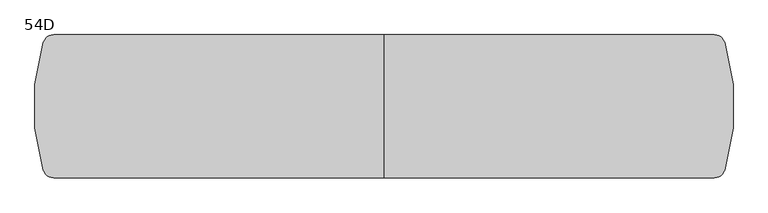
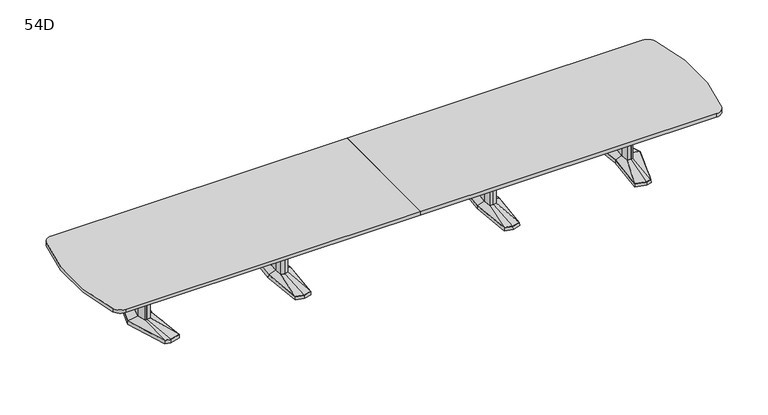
"""IFC4 building model written with IfcOpenShell, lengths in millimetres: furniture geometry, Coalesse_AM_Table_Conference_ETable2_SoftRadiused_22ft_AluminiumBase : 54D."""

from ifc_helpers import new_model, si_unit, point, frame, frame_2d, origin, place, context, project, spatial, polyline, circle_curve, trimmed, segment, composite_curve, outline, extrude, faceted_brep, source, transform, mapped, element, save
from ifc_brep_helpers import plane_surface, spline_surface, advanced_brep


def furniture_54d_d06905ca(model_context):
    return source(origin(), model_context, "Body", "SolidModel", [
        faceted_brep([(1036.3666209, -433.8053819, 38.1), (1117.6, -455.556576, 38.1), (1198.8333791, -433.8053819, 38.1), (1236.6564774, 0.0, 38.1), (1198.8333791, 433.8053819, 38.1), (1117.6, 455.556576, 38.1), (1036.3666209, 433.8053819, 38.1), (998.5435226, 0.0, 38.1), (1034.8817205, -435.0512063, 3.175), (996.95, 0.0, 3.175), (1034.8817205, 435.0512063, 3.175), (1117.6, 457.2, 3.175), (1200.3182795, 435.0512063, 3.175), (1238.25, 0.0, 3.175), (1200.3182795, -435.0512063, 3.175), (1117.6, -457.2, 3.175), (1117.6, 429.2617927, 3.175), (1039.6323194, 408.3850278, 3.175), (1042.8980179, 382.9646737, 3.175), (1117.6, 402.9670094, 3.175), (1192.3019821, 382.9646737, 3.175), (1195.5676806, 408.3850278, 3.175), (1117.6, -429.2617927, 3.175), (1195.5676806, -408.3850278, 3.175), (1192.3019821, -382.9646737, 3.175), (1117.6, -402.9670094, 3.175), (1042.8980179, -382.9646737, 3.175), (1039.6323194, -408.3850278, 3.175), (1045.7425738, 114.6326257, 3.175), (1035.0573924, 0.0, 3.175), (1045.7425738, -114.6326257, 3.175), (1117.6, -133.8761372, 3.175), (1189.4574262, -114.6326257, 3.175), (1200.1426076, 0.0, 3.175), (1189.4574262, 114.6326257, 3.175), (1117.6, 133.8761372, 3.175), (1117.6, 429.2617927, 0.0), (1195.5676806, 408.3850278, 0.0), (1192.3019821, 382.9646737, 0.0), (1117.6, 402.9670094, 0.0), (1042.8980179, 382.9646737, 0.0), (1039.6323194, 408.3850278, 0.0), (1117.6, -429.2617927, 0.0), (1039.6323194, -408.3850278, 0.0), (1042.8980179, -382.9646737, 0.0), (1117.6, -402.9670094, 0.0), (1192.3019821, -382.9646737, 0.0), (1195.5676806, -408.3850278, 0.0), (1045.7425738, 114.6326257, 0.0), (1117.6, 133.8761372, 0.0), (1189.4574262, 114.6326257, 0.0), (1200.1426076, 0.0, 0.0), (1189.4574262, -114.6326257, 0.0), (1117.6, -133.8761372, 0.0), (1045.7425738, -114.6326257, 0.0), (1035.0573924, 0.0, 0.0)], [[[0, 1, 2, 3, 4, 5, 6, 7]], [[8, 9, 10, 11, 12, 13, 14, 15], [16, 17, 18, 19, 20, 21], [22, 23, 24, 25, 26, 27], [28, 29, 30, 31, 32, 33, 34, 35]], [[1, 0, 8, 15]], [[2, 1, 15, 14]], [[3, 2, 14, 13]], [[4, 3, 13, 12]], [[5, 4, 12, 11]], [[6, 5, 11, 10]], [[7, 6, 10, 9]], [[0, 7, 9, 8]], [[36, 37, 38, 39, 40, 41]], [[42, 43, 44, 45, 46, 47]], [[48, 49, 50, 51, 52, 53, 54, 55]], [[36, 41, 17, 16]], [[41, 40, 18, 17]], [[40, 39, 19, 18]], [[39, 38, 20, 19]], [[38, 37, 21, 20]], [[37, 36, 16, 21]], [[42, 47, 23, 22]], [[47, 46, 24, 23]], [[46, 45, 25, 24]], [[45, 44, 26, 25]], [[44, 43, 27, 26]], [[43, 42, 22, 27]], [[48, 55, 29, 28]], [[55, 54, 30, 29]], [[54, 53, 31, 30]], [[53, 52, 32, 31]], [[52, 51, 33, 32]], [[51, 50, 34, 33]], [[50, 49, 35, 34]], [[49, 48, 28, 35]]]),
        faceted_brep([(1081.2167166, 84.6900825, 698.5), (1073.3225513, 0.0, 698.5), (1081.2167166, -84.6900825, 698.5), (1117.6, -94.4335728, 698.5), (1153.9832834, -84.6900825, 698.5), (1161.8774487, 0.0, 698.5), (1153.9832834, 84.6900825, 698.5), (1117.6, 94.4335728, 698.5), (1081.2167166, 84.6900825, 63.5), (1117.6, 94.4335728, 63.5), (1153.9832834, 84.6900825, 63.5), (1161.8774487, 0.0, 63.5), (1153.9832834, -84.6900825, 63.5), (1117.6, -94.4335728, 63.5), (1081.2167166, -84.6900825, 63.5), (1073.3225513, 0.0, 63.5)], [[[0, 1, 2, 3, 4, 5, 6, 7]], [[8, 9, 10, 11, 12, 13, 14, 15]], [[1, 0, 8, 15]], [[2, 1, 15, 14]], [[3, 2, 14, 13]], [[4, 3, 13, 12]], [[5, 4, 12, 11]], [[6, 5, 11, 10]], [[7, 6, 10, 9]], [[0, 7, 9, 8]]]),
        advanced_brep(
        [(1081.2167166, 84.6900825, 63.5), (1073.3225513, 0.0, 63.5), (1081.2167166, -84.6900825, 63.5), (1117.6, -94.4335728, 63.5), (1153.9832834, -84.6900825, 63.5), (1161.8774487, 0.0, 63.5), (1153.9832834, 84.6900825, 63.5), (1117.6, 94.4335728, 63.5), (1036.3666209, 433.8053819, 38.1), (1117.6, 455.556576, 38.1), (1198.8333791, 433.8053819, 38.1), (1236.6564774, 0.0, 38.1), (1198.8333791, -433.8053819, 38.1), (1117.6, -455.556576, 38.1), (1036.3666209, -433.8053819, 38.1), (998.5435226, 0.0, 38.1)],
        [
            (0, 1),
            (1, 2),
            (2, 3),
            (3, 4),
            (4, 5),
            (5, 6),
            (6, 7),
            (7, 0),
            (8, 9),
            (9, 10),
            (10, 11),
            (11, 12),
            (12, 13),
            (13, 14),
            (14, 15),
            (15, 8),
            (15, 1),
            (0, 8),
            (14, 2),
            (13, 3),
            (12, 4),
            (11, 5),
            (10, 6),
            (9, 7),
        ],
        [
            plane_surface(frame((1117.6, 0.0, 63.5), z_axis=(0.0, 0.0, 1.0000000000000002), x_axis=(-0.9659615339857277, -0.25868574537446, 0.0))),
            plane_surface(frame((1117.6, 0.0, 38.1), z_axis=(0.0, 0.0, -1.0000000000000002), x_axis=(-0.9659615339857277, -0.25868574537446, 0.0))),
            spline_surface(1, 1, [[(1036.3666209, 433.8053819, 38.1), (1081.2167166, 84.6900825, 63.5)], [(998.5435226, 0.0, 38.1), (1073.3225513, 0.0, 63.5)]], [2, 2], [2, 2], [0.0, 1.0], [0.0, 1.0]),
            spline_surface(1, 1, [[(998.5435226, 0.0, 38.1), (1073.3225513, 0.0, 63.5)], [(1036.3666209, -433.8053819, 38.1), (1081.2167166, -84.6900825, 63.5)]], [2, 2], [2, 2], [0.0, 1.0], [0.0, 1.0]),
            spline_surface(1, 1, [[(1036.3666209, -433.8053819, 38.1), (1081.2167166, -84.6900825, 63.5)], [(1117.6, -455.556576, 38.1), (1117.6, -94.4335728, 63.5)]], [2, 2], [2, 2], [0.0, 1.0], [0.0, 1.0]),
            spline_surface(1, 1, [[(1117.6, -455.556576, 38.1), (1117.6, -94.4335728, 63.5)], [(1198.8333791, -433.8053819, 38.1), (1153.9832834, -84.6900825, 63.5)]], [2, 2], [2, 2], [0.0, 1.0], [0.0, 1.0]),
            spline_surface(1, 1, [[(1198.8333791, -433.8053819, 38.1), (1153.9832834, -84.6900825, 63.5)], [(1236.6564774, 0.0, 38.1), (1161.8774487, 0.0, 63.5)]], [2, 2], [2, 2], [0.0, 1.0], [0.0, 1.0]),
            spline_surface(1, 1, [[(1236.6564774, 0.0, 38.1), (1161.8774487, 0.0, 63.5)], [(1198.8333791, 433.8053819, 38.1), (1153.9832834, 84.6900825, 63.5)]], [2, 2], [2, 2], [0.0, 1.0], [0.0, 1.0]),
            spline_surface(1, 1, [[(1198.8333791, 433.8053819, 38.1), (1153.9832834, 84.6900825, 63.5)], [(1117.6, 455.556576, 38.1), (1117.6, 94.4335728, 63.5)]], [2, 2], [2, 2], [0.0, 1.0], [0.0, 1.0]),
            spline_surface(1, 1, [[(1117.6, 455.556576, 38.1), (1117.6, 94.4335728, 63.5)], [(1036.3666209, 433.8053819, 38.1), (1081.2167166, 84.6900825, 63.5)]], [2, 2], [2, 2], [0.0, 1.0], [0.0, 1.0]),
        ],
        [
            (0, [[1, 2, 3, 4, 5, 6, 7, 8]]),
            (1, [[9, 10, 11, 12, 13, 14, 15, 16]]),
            (2, [[-16, 17, -1, 18]]),
            (3, [[-15, 19, -2, -17]]),
            (4, [[-14, 20, -3, -19]]),
            (5, [[-13, 21, -4, -20]]),
            (6, [[-12, 22, -5, -21]]),
            (7, [[-11, 23, -6, -22]]),
            (8, [[-10, 24, -7, -23]]),
            (9, [[-9, -18, -8, -24]]),
        ],
    ),
        faceted_brep([(-1198.8333791, -433.8053819, 38.1), (-1117.6, -455.556576, 38.1), (-1036.3666209, -433.8053819, 38.1), (-998.5435226, 0.0, 38.1), (-1036.3666209, 433.8053819, 38.1), (-1117.6, 455.556576, 38.1), (-1198.8333791, 433.8053819, 38.1), (-1236.6564774, 0.0, 38.1), (-1200.3182795, -435.0512063, 3.175), (-1238.25, 0.0, 3.175), (-1200.3182795, 435.0512063, 3.175), (-1117.6, 457.2, 3.175), (-1034.8817205, 435.0512063, 3.175), (-996.95, 0.0, 3.175), (-1034.8817205, -435.0512063, 3.175), (-1117.6, -457.2, 3.175), (-1117.6, 429.2617927, 3.175), (-1195.5676806, 408.3850278, 3.175), (-1192.3019821, 382.9646737, 3.175), (-1117.6, 402.9670094, 3.175), (-1042.8980179, 382.9646737, 3.175), (-1039.6323194, 408.3850278, 3.175), (-1117.6, -429.2617927, 3.175), (-1039.6323194, -408.3850278, 3.175), (-1042.8980179, -382.9646737, 3.175), (-1117.6, -402.9670094, 3.175), (-1192.3019821, -382.9646737, 3.175), (-1195.5676806, -408.3850278, 3.175), (-1189.4574262, 114.6326257, 3.175), (-1200.1426076, 0.0, 3.175), (-1189.4574262, -114.6326257, 3.175), (-1117.6, -133.8761372, 3.175), (-1045.7425738, -114.6326257, 3.175), (-1035.0573924, 0.0, 3.175), (-1045.7425738, 114.6326257, 3.175), (-1117.6, 133.8761372, 3.175), (-1117.6, 429.2617927, 0.0), (-1039.6323194, 408.3850278, 0.0), (-1042.8980179, 382.9646737, 0.0), (-1117.6, 402.9670094, 0.0), (-1192.3019821, 382.9646737, 0.0), (-1195.5676806, 408.3850278, 0.0), (-1117.6, -429.2617927, 0.0), (-1195.5676806, -408.3850278, 0.0), (-1192.3019821, -382.9646737, 0.0), (-1117.6, -402.9670094, 0.0), (-1042.8980179, -382.9646737, 0.0), (-1039.6323194, -408.3850278, 0.0), (-1189.4574262, 114.6326257, 0.0), (-1117.6, 133.8761372, 0.0), (-1045.7425738, 114.6326257, 0.0), (-1035.0573924, 0.0, 0.0), (-1045.7425738, -114.6326257, 0.0), (-1117.6, -133.8761372, 0.0), (-1189.4574262, -114.6326257, 0.0), (-1200.1426076, 0.0, 0.0)], [[[0, 1, 2, 3, 4, 5, 6, 7]], [[8, 9, 10, 11, 12, 13, 14, 15], [16, 17, 18, 19, 20, 21], [22, 23, 24, 25, 26, 27], [28, 29, 30, 31, 32, 33, 34, 35]], [[1, 0, 8, 15]], [[2, 1, 15, 14]], [[3, 2, 14, 13]], [[4, 3, 13, 12]], [[5, 4, 12, 11]], [[6, 5, 11, 10]], [[7, 6, 10, 9]], [[0, 7, 9, 8]], [[36, 37, 38, 39, 40, 41]], [[42, 43, 44, 45, 46, 47]], [[48, 49, 50, 51, 52, 53, 54, 55]], [[36, 41, 17, 16]], [[41, 40, 18, 17]], [[40, 39, 19, 18]], [[39, 38, 20, 19]], [[38, 37, 21, 20]], [[37, 36, 16, 21]], [[42, 47, 23, 22]], [[47, 46, 24, 23]], [[46, 45, 25, 24]], [[45, 44, 26, 25]], [[44, 43, 27, 26]], [[43, 42, 22, 27]], [[48, 55, 29, 28]], [[55, 54, 30, 29]], [[54, 53, 31, 30]], [[53, 52, 32, 31]], [[52, 51, 33, 32]], [[51, 50, 34, 33]], [[50, 49, 35, 34]], [[49, 48, 28, 35]]]),
        faceted_brep([(-1153.9832834, 84.6900825, 698.5), (-1161.8774487, 0.0, 698.5), (-1153.9832834, -84.6900825, 698.5), (-1117.6, -94.4335728, 698.5), (-1081.2167166, -84.6900825, 698.5), (-1073.3225513, 0.0, 698.5), (-1081.2167166, 84.6900825, 698.5), (-1117.6, 94.4335728, 698.5), (-1153.9832834, 84.6900825, 63.5), (-1117.6, 94.4335728, 63.5), (-1081.2167166, 84.6900825, 63.5), (-1073.3225513, 0.0, 63.5), (-1081.2167166, -84.6900825, 63.5), (-1117.6, -94.4335728, 63.5), (-1153.9832834, -84.6900825, 63.5), (-1161.8774487, 0.0, 63.5)], [[[0, 1, 2, 3, 4, 5, 6, 7]], [[8, 9, 10, 11, 12, 13, 14, 15]], [[1, 0, 8, 15]], [[2, 1, 15, 14]], [[3, 2, 14, 13]], [[4, 3, 13, 12]], [[5, 4, 12, 11]], [[6, 5, 11, 10]], [[7, 6, 10, 9]], [[0, 7, 9, 8]]]),
        advanced_brep(
        [(-1153.9832834, 84.6900825, 63.5), (-1161.8774487, 0.0, 63.5), (-1153.9832834, -84.6900825, 63.5), (-1117.6, -94.4335728, 63.5), (-1081.2167166, -84.6900825, 63.5), (-1073.3225513, 0.0, 63.5), (-1081.2167166, 84.6900825, 63.5), (-1117.6, 94.4335728, 63.5), (-1198.8333791, 433.8053819, 38.1), (-1117.6, 455.556576, 38.1), (-1036.3666209, 433.8053819, 38.1), (-998.5435226, 0.0, 38.1), (-1036.3666209, -433.8053819, 38.1), (-1117.6, -455.556576, 38.1), (-1198.8333791, -433.8053819, 38.1), (-1236.6564774, 0.0, 38.1)],
        [
            (0, 1),
            (1, 2),
            (2, 3),
            (3, 4),
            (4, 5),
            (5, 6),
            (6, 7),
            (7, 0),
            (8, 9),
            (9, 10),
            (10, 11),
            (11, 12),
            (12, 13),
            (13, 14),
            (14, 15),
            (15, 8),
            (15, 1),
            (0, 8),
            (14, 2),
            (13, 3),
            (12, 4),
            (11, 5),
            (10, 6),
            (9, 7),
        ],
        [
            plane_surface(frame((-1117.6, 0.0, 63.5), z_axis=(0.0, 0.0, 1.0000000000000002), x_axis=(-0.9659615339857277, -0.25868574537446, 0.0))),
            plane_surface(frame((-1117.6, 0.0, 38.1), z_axis=(0.0, 0.0, -1.0000000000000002), x_axis=(-0.9659615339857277, -0.25868574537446, 0.0))),
            spline_surface(1, 1, [[(-1198.8333791, 433.8053819, 38.1), (-1153.9832834, 84.6900825, 63.5)], [(-1236.6564774, 0.0, 38.1), (-1161.8774487, 0.0, 63.5)]], [2, 2], [2, 2], [0.0, 1.0], [0.0, 1.0]),
            spline_surface(1, 1, [[(-1236.6564774, 0.0, 38.1), (-1161.8774487, 0.0, 63.5)], [(-1198.8333791, -433.8053819, 38.1), (-1153.9832834, -84.6900825, 63.5)]], [2, 2], [2, 2], [0.0, 1.0], [0.0, 1.0]),
            spline_surface(1, 1, [[(-1198.8333791, -433.8053819, 38.1), (-1153.9832834, -84.6900825, 63.5)], [(-1117.6, -455.556576, 38.1), (-1117.6, -94.4335728, 63.5)]], [2, 2], [2, 2], [0.0, 1.0], [0.0, 1.0]),
            spline_surface(1, 1, [[(-1117.6, -455.556576, 38.1), (-1117.6, -94.4335728, 63.5)], [(-1036.3666209, -433.8053819, 38.1), (-1081.2167166, -84.6900825, 63.5)]], [2, 2], [2, 2], [0.0, 1.0], [0.0, 1.0]),
            spline_surface(1, 1, [[(-1036.3666209, -433.8053819, 38.1), (-1081.2167166, -84.6900825, 63.5)], [(-998.5435226, 0.0, 38.1), (-1073.3225513, 0.0, 63.5)]], [2, 2], [2, 2], [0.0, 1.0], [0.0, 1.0]),
            spline_surface(1, 1, [[(-998.5435226, 0.0, 38.1), (-1073.3225513, 0.0, 63.5)], [(-1036.3666209, 433.8053819, 38.1), (-1081.2167166, 84.6900825, 63.5)]], [2, 2], [2, 2], [0.0, 1.0], [0.0, 1.0]),
            spline_surface(1, 1, [[(-1036.3666209, 433.8053819, 38.1), (-1081.2167166, 84.6900825, 63.5)], [(-1117.6, 455.556576, 38.1), (-1117.6, 94.4335728, 63.5)]], [2, 2], [2, 2], [0.0, 1.0], [0.0, 1.0]),
            spline_surface(1, 1, [[(-1117.6, 455.556576, 38.1), (-1117.6, 94.4335728, 63.5)], [(-1198.8333791, 433.8053819, 38.1), (-1153.9832834, 84.6900825, 63.5)]], [2, 2], [2, 2], [0.0, 1.0], [0.0, 1.0]),
        ],
        [
            (0, [[1, 2, 3, 4, 5, 6, 7, 8]]),
            (1, [[9, 10, 11, 12, 13, 14, 15, 16]]),
            (2, [[-16, 17, -1, 18]]),
            (3, [[-15, 19, -2, -17]]),
            (4, [[-14, 20, -3, -19]]),
            (5, [[-13, 21, -4, -20]]),
            (6, [[-12, 22, -5, -21]]),
            (7, [[-11, 23, -6, -22]]),
            (8, [[-10, 24, -7, -23]]),
            (9, [[-9, -18, -8, -24]]),
        ],
    ),
        faceted_brep([(2548.0994335, 455.5848221, 38.1), (2438.5218777, 426.2263816, 38.1), (2479.6851217, 0.0, 38.1), (2438.5218777, -426.2263816, 38.1), (2548.0994335, -455.5848221, 38.1), (2604.2257896, -440.5478297, 38.1), (2741.5371769, 0.0, 38.1), (2604.2257896, 440.5478297, 38.1), (2548.0994254, 457.2283104, 3.175), (2605.4811972, 441.8549756, 3.175), (2743.2, 0.0, 3.175), (2605.4811972, -441.8549756, 3.175), (2548.0994254, -457.2283104, 3.175), (2436.8125, -427.4118891, 3.175), (2478.0902356, 0.0, 3.175), (2436.8125, 427.4118891, 3.175), (2551.688865, 428.3273875, 3.175), (2446.6405728, 402.1057253, 3.175), (2454.759268, 377.985069, 3.175), (2555.2782966, 401.0699529, 3.175), (2605.8379225, 387.524361, 3.175), (2605.0318561, 414.0360954, 3.175), (2551.688865, -428.3273875, 3.175), (2605.0318561, -414.0360954, 3.175), (2605.8379225, -387.524361, 3.175), (2555.2782966, -401.0699529, 3.175), (2454.759268, -377.985069, 3.175), (2446.6405728, -402.1057253, 3.175), (2678.2841121, 0.0, 3.175), (2646.0147111, 120.4193755, 3.175), (2597.3674722, 133.471665, 3.175), (2517.4868026, 119.4176561, 3.175), (2506.3555966, 0.0, 3.175), (2517.4868026, -119.4176561, 3.175), (2597.3674722, -133.471665, 3.175), (2646.0147111, -120.4193755, 3.175), (2551.688865, 428.3273875, 0.0), (2605.0318561, 414.0360954, 0.0), (2605.8379225, 387.524361, 0.0), (2555.2782966, 401.0699529, 0.0), (2454.759268, 377.985069, 0.0), (2446.6405728, 402.1057253, 0.0), (2551.688865, -428.3273875, 0.0), (2446.6405728, -402.1057253, 0.0), (2454.759268, -377.985069, 0.0), (2555.2782966, -401.0699529, 0.0), (2605.8379225, -387.524361, 0.0), (2605.0318561, -414.0360954, 0.0), (2678.2841121, 0.0, 0.0), (2646.0147111, -120.4193755, 0.0), (2597.3674722, -133.471665, 0.0), (2517.4868026, -119.4176561, 0.0), (2506.3555966, 0.0, 0.0), (2517.4868026, 119.4176561, 0.0), (2597.3674722, 133.471665, 0.0), (2646.0147111, 120.4193755, 0.0)], [[[0, 1, 2, 3, 4, 5, 6, 7]], [[8, 9, 10, 11, 12, 13, 14, 15], [16, 17, 18, 19, 20, 21], [22, 23, 24, 25, 26, 27], [28, 29, 30, 31, 32, 33, 34, 35]], [[7, 9, 8, 0]], [[6, 10, 9, 7]], [[5, 11, 10, 6]], [[4, 12, 11, 5]], [[3, 13, 12, 4]], [[2, 14, 13, 3]], [[1, 15, 14, 2]], [[0, 8, 15, 1]], [[36, 37, 38, 39, 40, 41]], [[42, 43, 44, 45, 46, 47]], [[48, 49, 50, 51, 52, 53, 54, 55]], [[36, 16, 21, 37]], [[37, 21, 20, 38]], [[38, 20, 19, 39]], [[39, 19, 18, 40]], [[40, 18, 17, 41]], [[41, 17, 16, 36]], [[42, 22, 27, 43]], [[43, 27, 26, 44]], [[44, 26, 25, 45]], [[45, 25, 24, 46]], [[46, 24, 23, 47]], [[47, 23, 22, 42]], [[48, 28, 35, 49]], [[49, 35, 34, 50]], [[50, 34, 33, 51]], [[51, 33, 32, 52]], [[52, 32, 31, 53]], [[53, 31, 30, 54]], [[54, 30, 29, 55]], [[55, 29, 28, 48]]]),
        faceted_brep([(2638.8398336, 0.0, 698.5), (2614.9046046, 89.3188359, 698.5), (2598.0512484, 93.8406728, 698.5), (2595.6514011, 94.4845635, 698.5), (2552.723896, 86.9320037, 698.5), (2544.6207556, 0.0, 698.5), (2552.723896, -86.9320037, 698.5), (2595.6514011, -94.4845635, 698.5), (2598.0512484, -93.8406728, 698.5), (2614.9046046, -89.3188359, 698.5), (2638.8398336, 0.0, 63.5), (2614.9046046, -89.3188359, 63.5), (2598.0512484, -93.8406728, 63.5), (2595.6514011, -94.4845635, 63.5), (2552.723896, -86.9320037, 63.5), (2544.6207556, 0.0, 63.5), (2552.723896, 86.9320037, 63.5), (2595.6514011, 94.4845635, 63.5), (2598.0512484, 93.8406728, 63.5), (2614.9046046, 89.3188359, 63.5)], [[[0, 1, 2, 3, 4, 5, 6, 7, 8, 9]], [[10, 11, 12, 13, 14, 15, 16, 17, 18, 19]], [[9, 11, 10, 0]], [[8, 12, 11, 9]], [[7, 13, 12, 8]], [[6, 14, 13, 7]], [[5, 15, 14, 6]], [[4, 16, 15, 5]], [[3, 17, 16, 4]], [[2, 18, 17, 3]], [[1, 19, 18, 2]], [[0, 10, 19, 1]]]),
        advanced_brep(
        [(2595.6514011, 94.4845635, 63.5), (2552.723896, 86.9320037, 63.5), (2544.6207556, 0.0, 63.5), (2552.723896, -86.9320037, 63.5), (2595.6514011, -94.4845635, 63.5), (2614.9046046, -89.3188359, 63.5), (2638.8398336, 0.0, 63.5), (2614.9046046, 89.3188359, 63.5), (2548.0994335, 455.5848221, 38.1), (2604.2257896, 440.5478297, 38.1), (2741.5371769, 0.0, 38.1), (2604.2257896, -440.5478297, 38.1), (2548.0994335, -455.5848221, 38.1), (2438.5218777, -426.2263816, 38.1), (2479.6851217, 0.0, 38.1), (2438.5218777, 426.2263816, 38.1)],
        [
            (0, 1),
            (1, 2),
            (2, 3),
            (3, 4),
            (4, 5),
            (5, 6),
            (6, 7),
            (7, 0),
            (8, 9),
            (9, 10),
            (10, 11),
            (11, 12),
            (12, 13),
            (13, 14),
            (14, 15),
            (15, 8),
            (8, 0),
            (7, 9),
            (6, 10),
            (5, 11),
            (4, 12),
            (3, 13),
            (2, 14),
            (1, 15),
        ],
        [
            plane_surface(frame((2588.7525491, 0.0, 63.5), z_axis=(0.0, 0.0, 1.0), x_axis=(-0.25884244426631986, -0.9659195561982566, 0.0))),
            plane_surface(frame((2550.3645625, 0.0, 38.1), z_axis=(0.0, 0.0, -1.0), x_axis=(-0.25884244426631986, -0.9659195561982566, 0.0))),
            spline_surface(1, 1, [[(2548.0994335, 455.5848221, 38.1), (2604.2257896, 440.5478297, 38.1)], [(2595.6514011, 94.4845635, 63.5), (2614.9046046, 89.3188359, 63.5)]], [2, 2], [2, 2], [0.0, 1.0], [0.0, 1.0]),
            spline_surface(1, 1, [[(2604.2257896, 440.5478297, 38.1), (2741.5371769, 0.0, 38.1)], [(2614.9046046, 89.3188359, 63.5), (2638.8398336, 0.0, 63.5)]], [2, 2], [2, 2], [0.0, 1.0], [0.0, 1.0]),
            spline_surface(1, 1, [[(2741.5371769, 0.0, 38.1), (2604.2257896, -440.5478297, 38.1)], [(2638.8398336, 0.0, 63.5), (2614.9046046, -89.3188359, 63.5)]], [2, 2], [2, 2], [0.0, 1.0], [0.0, 1.0]),
            spline_surface(1, 1, [[(2604.2257896, -440.5478297, 38.1), (2548.0994335, -455.5848221, 38.1)], [(2614.9046046, -89.3188359, 63.5), (2595.6514011, -94.4845635, 63.5)]], [2, 2], [2, 2], [0.0, 1.0], [0.0, 1.0]),
            spline_surface(1, 1, [[(2548.0994335, -455.5848221, 38.1), (2438.5218777, -426.2263816, 38.1)], [(2595.6514011, -94.4845635, 63.5), (2552.723896, -86.9320037, 63.5)]], [2, 2], [2, 2], [0.0, 1.0], [0.0, 1.0]),
            spline_surface(1, 1, [[(2438.5218777, -426.2263816, 38.1), (2479.6851217, 0.0, 38.1)], [(2552.723896, -86.9320037, 63.5), (2544.6207556, 0.0, 63.5)]], [2, 2], [2, 2], [0.0, 1.0], [0.0, 1.0]),
            spline_surface(1, 1, [[(2479.6851217, 0.0, 38.1), (2438.5218777, 426.2263816, 38.1)], [(2544.6207556, 0.0, 63.5), (2552.723896, 86.9320037, 63.5)]], [2, 2], [2, 2], [0.0, 1.0], [0.0, 1.0]),
            spline_surface(1, 1, [[(2438.5218777, 426.2263816, 38.1), (2548.0994335, 455.5848221, 38.1)], [(2552.723896, 86.9320037, 63.5), (2595.6514011, 94.4845635, 63.5)]], [2, 2], [2, 2], [0.0, 1.0], [0.0, 1.0]),
        ],
        [
            (0, [[1, 2, 3, 4, 5, 6, 7, 8]]),
            (1, [[9, 10, 11, 12, 13, 14, 15, 16]]),
            (2, [[17, -8, 18, -9]]),
            (3, [[-18, -7, 19, -10]]),
            (4, [[-19, -6, 20, -11]]),
            (5, [[-20, -5, 21, -12]]),
            (6, [[-21, -4, 22, -13]]),
            (7, [[-22, -3, 23, -14]]),
            (8, [[-23, -2, 24, -15]]),
            (9, [[-24, -1, -17, -16]]),
        ],
    ),
        faceted_brep([(-2548.0994335, 455.5848221, 38.1), (-2604.2257896, 440.5478297, 38.1), (-2741.5371769, 0.0, 38.1), (-2604.2257896, -440.5478297, 38.1), (-2548.0994335, -455.5848221, 38.1), (-2438.5218777, -426.2263816, 38.1), (-2479.6851217, 0.0, 38.1), (-2438.5218777, 426.2263816, 38.1), (-2548.0994254, 457.2283104, 3.175), (-2436.8125, 427.4118891, 3.175), (-2478.0902356, 0.0, 3.175), (-2436.8125, -427.4118891, 3.175), (-2548.0994254, -457.2283104, 3.175), (-2605.4811972, -441.8549756, 3.175), (-2743.2, 0.0, 3.175), (-2605.4811972, 441.8549756, 3.175), (-2551.688865, 428.3273875, 3.175), (-2605.0318561, 414.0360954, 3.175), (-2605.8379225, 387.524361, 3.175), (-2555.2782966, 401.0699529, 3.175), (-2454.759268, 377.985069, 3.175), (-2446.6405728, 402.1057253, 3.175), (-2551.688865, -428.3273875, 3.175), (-2446.6405728, -402.1057253, 3.175), (-2454.759268, -377.985069, 3.175), (-2555.2782966, -401.0699529, 3.175), (-2605.8379225, -387.524361, 3.175), (-2605.0318561, -414.0360954, 3.175), (-2678.2841121, 0.0, 3.175), (-2646.0147111, -120.4193755, 3.175), (-2597.3674722, -133.471665, 3.175), (-2517.4868026, -119.4176561, 3.175), (-2506.3555966, 0.0, 3.175), (-2517.4868026, 119.4176561, 3.175), (-2597.3674722, 133.471665, 3.175), (-2646.0147111, 120.4193755, 3.175), (-2551.688865, 428.3273875, 0.0), (-2446.6405728, 402.1057253, 0.0), (-2454.759268, 377.985069, 0.0), (-2555.2782966, 401.0699529, 0.0), (-2605.8379225, 387.524361, 0.0), (-2605.0318561, 414.0360954, 0.0), (-2551.688865, -428.3273875, 0.0), (-2605.0318561, -414.0360954, 0.0), (-2605.8379225, -387.524361, 0.0), (-2555.2782966, -401.0699529, 0.0), (-2454.759268, -377.985069, 0.0), (-2446.6405728, -402.1057253, 0.0), (-2678.2841121, 0.0, 0.0), (-2646.0147111, 120.4193755, 0.0), (-2597.3674722, 133.471665, 0.0), (-2517.4868026, 119.4176561, 0.0), (-2506.3555966, 0.0, 0.0), (-2517.4868026, -119.4176561, 0.0), (-2597.3674722, -133.471665, 0.0), (-2646.0147111, -120.4193755, 0.0)], [[[0, 1, 2, 3, 4, 5, 6, 7]], [[8, 9, 10, 11, 12, 13, 14, 15], [16, 17, 18, 19, 20, 21], [22, 23, 24, 25, 26, 27], [28, 29, 30, 31, 32, 33, 34, 35]], [[1, 0, 8, 15]], [[2, 1, 15, 14]], [[3, 2, 14, 13]], [[4, 3, 13, 12]], [[5, 4, 12, 11]], [[6, 5, 11, 10]], [[7, 6, 10, 9]], [[0, 7, 9, 8]], [[36, 37, 38, 39, 40, 41]], [[42, 43, 44, 45, 46, 47]], [[48, 49, 50, 51, 52, 53, 54, 55]], [[36, 41, 17, 16]], [[41, 40, 18, 17]], [[40, 39, 19, 18]], [[39, 38, 20, 19]], [[38, 37, 21, 20]], [[37, 36, 16, 21]], [[42, 47, 23, 22]], [[47, 46, 24, 23]], [[46, 45, 25, 24]], [[45, 44, 26, 25]], [[44, 43, 27, 26]], [[43, 42, 22, 27]], [[48, 55, 29, 28]], [[55, 54, 30, 29]], [[54, 53, 31, 30]], [[53, 52, 32, 31]], [[52, 51, 33, 32]], [[51, 50, 34, 33]], [[50, 49, 35, 34]], [[49, 48, 28, 35]]]),
        faceted_brep([(-2638.8398336, 0.0, 698.5), (-2614.9046046, -89.3188359, 698.5), (-2598.0512484, -93.8406728, 698.5), (-2595.6514011, -94.4845635, 698.5), (-2552.723896, -86.9320037, 698.5), (-2544.6207556, 0.0, 698.5), (-2552.723896, 86.9320037, 698.5), (-2595.6514011, 94.4845635, 698.5), (-2598.0512484, 93.8406728, 698.5), (-2614.9046046, 89.3188359, 698.5), (-2638.8398336, 0.0, 63.5), (-2614.9046046, 89.3188359, 63.5), (-2598.0512484, 93.8406728, 63.5), (-2595.6514011, 94.4845635, 63.5), (-2552.723896, 86.9320037, 63.5), (-2544.6207556, 0.0, 63.5), (-2552.723896, -86.9320037, 63.5), (-2595.6514011, -94.4845635, 63.5), (-2598.0512484, -93.8406728, 63.5), (-2614.9046046, -89.3188359, 63.5)], [[[0, 1, 2, 3, 4, 5, 6, 7, 8, 9]], [[10, 11, 12, 13, 14, 15, 16, 17, 18, 19]], [[1, 0, 10, 19]], [[2, 1, 19, 18]], [[3, 2, 18, 17]], [[4, 3, 17, 16]], [[5, 4, 16, 15]], [[6, 5, 15, 14]], [[7, 6, 14, 13]], [[8, 7, 13, 12]], [[9, 8, 12, 11]], [[0, 9, 11, 10]]]),
        advanced_brep(
        [(-2595.6514011, 94.4845635, 63.5), (-2614.9046046, 89.3188359, 63.5), (-2638.8398336, 0.0, 63.5), (-2614.9046046, -89.3188359, 63.5), (-2595.6514011, -94.4845635, 63.5), (-2552.723896, -86.9320037, 63.5), (-2544.6207556, 0.0, 63.5), (-2552.723896, 86.9320037, 63.5), (-2548.0994335, 455.5848221, 38.1), (-2438.5218777, 426.2263816, 38.1), (-2479.6851217, 0.0, 38.1), (-2438.5218777, -426.2263816, 38.1), (-2548.0994335, -455.5848221, 38.1), (-2604.2257896, -440.5478297, 38.1), (-2741.5371769, 0.0, 38.1), (-2604.2257896, 440.5478297, 38.1)],
        [
            (0, 1),
            (1, 2),
            (2, 3),
            (3, 4),
            (4, 5),
            (5, 6),
            (6, 7),
            (7, 0),
            (8, 9),
            (9, 10),
            (10, 11),
            (11, 12),
            (12, 13),
            (13, 14),
            (14, 15),
            (15, 8),
            (15, 1),
            (0, 8),
            (14, 2),
            (13, 3),
            (12, 4),
            (11, 5),
            (10, 6),
            (9, 7),
        ],
        [
            plane_surface(frame((-2588.7525491, 0.0, 63.5), z_axis=(0.0, 0.0, 1.0), x_axis=(0.25884244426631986, -0.9659195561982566, 0.0))),
            plane_surface(frame((-2550.3645625, 0.0, 38.1), z_axis=(0.0, 0.0, -1.0), x_axis=(0.25884244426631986, -0.9659195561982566, 0.0))),
            spline_surface(1, 1, [[(-2548.0994335, 455.5848221, 38.1), (-2595.6514011, 94.4845635, 63.5)], [(-2604.2257896, 440.5478297, 38.1), (-2614.9046046, 89.3188359, 63.5)]], [2, 2], [2, 2], [0.0, 1.0], [0.0, 1.0]),
            spline_surface(1, 1, [[(-2604.2257896, 440.5478297, 38.1), (-2614.9046046, 89.3188359, 63.5)], [(-2741.5371769, 0.0, 38.1), (-2638.8398336, 0.0, 63.5)]], [2, 2], [2, 2], [0.0, 1.0], [0.0, 1.0]),
            spline_surface(1, 1, [[(-2741.5371769, 0.0, 38.1), (-2638.8398336, 0.0, 63.5)], [(-2604.2257896, -440.5478297, 38.1), (-2614.9046046, -89.3188359, 63.5)]], [2, 2], [2, 2], [0.0, 1.0], [0.0, 1.0]),
            spline_surface(1, 1, [[(-2604.2257896, -440.5478297, 38.1), (-2614.9046046, -89.3188359, 63.5)], [(-2548.0994335, -455.5848221, 38.1), (-2595.6514011, -94.4845635, 63.5)]], [2, 2], [2, 2], [0.0, 1.0], [0.0, 1.0]),
            spline_surface(1, 1, [[(-2548.0994335, -455.5848221, 38.1), (-2595.6514011, -94.4845635, 63.5)], [(-2438.5218777, -426.2263816, 38.1), (-2552.723896, -86.9320037, 63.5)]], [2, 2], [2, 2], [0.0, 1.0], [0.0, 1.0]),
            spline_surface(1, 1, [[(-2438.5218777, -426.2263816, 38.1), (-2552.723896, -86.9320037, 63.5)], [(-2479.6851217, 0.0, 38.1), (-2544.6207556, 0.0, 63.5)]], [2, 2], [2, 2], [0.0, 1.0], [0.0, 1.0]),
            spline_surface(1, 1, [[(-2479.6851217, 0.0, 38.1), (-2544.6207556, 0.0, 63.5)], [(-2438.5218777, 426.2263816, 38.1), (-2552.723896, 86.9320037, 63.5)]], [2, 2], [2, 2], [0.0, 1.0], [0.0, 1.0]),
            spline_surface(1, 1, [[(-2438.5218777, 426.2263816, 38.1), (-2552.723896, 86.9320037, 63.5)], [(-2548.0994335, 455.5848221, 38.1), (-2595.6514011, 94.4845635, 63.5)]], [2, 2], [2, 2], [0.0, 1.0], [0.0, 1.0]),
        ],
        [
            (0, [[1, 2, 3, 4, 5, 6, 7, 8]]),
            (1, [[9, 10, 11, 12, 13, 14, 15, 16]]),
            (2, [[-16, 17, -1, 18]]),
            (3, [[-15, 19, -2, -17]]),
            (4, [[-14, 20, -3, -19]]),
            (5, [[-13, 21, -4, -20]]),
            (6, [[-12, 22, -5, -21]]),
            (7, [[-11, 23, -6, -22]]),
            (8, [[-10, 24, -7, -23]]),
            (9, [[-9, -18, -8, -24]]),
        ],
    ),
        extrude(outline(polyline([(96.8375, 698.5), (103.1875, 698.5), (103.1875, 476.25), (-103.1875, 476.25), (-103.1875, 698.5), (-96.8375, 698.5), (-96.8375, 482.6), (96.8375, 482.6), (96.8375, 698.5)])), frame((-2544.7625, 0.0, 0.0), z_axis=(1.0, 0.0, 0.0), x_axis=(0.0, 1.0, 0.0)), (0.0, 0.0, 1.0), 1382.8850513),
        extrude(outline(polyline([(96.8375, 698.5), (103.1875, 698.5), (103.1875, 476.25), (-103.1875, 476.25), (-103.1875, 698.5), (-96.8375, 698.5), (-96.8375, 482.6), (96.8375, 482.6), (96.8375, 698.5)])), frame((-1073.3225513, 0.0, 0.0), z_axis=(1.0, 0.0, 0.0), x_axis=(0.0, 1.0, 0.0)), (0.0, 0.0, 1.0), 2146.6451026),
        extrude(outline(composite_curve([segment(polyline([(0.0, 33.8098423), (0.0, 685.8), (3163.6557965, 685.8)]), True, "CONTINUOUS"), segment(trimmed(circle_curve(frame_2d((3163.6557965, 584.2)), 101.6), [point((3163.6557965, 685.8))], [point((3259.4453259, 618.0662966))], False, "CARTESIAN"), True, "CONTINUOUS"), segment(polyline([(3259.4453259, 618.0662966), (3260.1956256, 615.9441026)]), True, "CONTINUOUS"), segment(trimmed(circle_curve(frame_2d((1258.0679193, 0.0)), 2094.7320807), [point((3260.1956256, 615.9441026))], [point((3260.1956256, -615.9441026))], False, "CARTESIAN"), True, "CONTINUOUS"), segment(polyline([(3260.1956256, -615.9441026), (3259.4453259, -618.0662966)]), True, "CONTINUOUS"), segment(trimmed(circle_curve(frame_2d((3163.6557965, -584.2)), 101.6), [point((3259.4453259, -618.0662966))], [point((3163.6557965, -685.8))], False, "CARTESIAN"), True, "CONTINUOUS"), segment(polyline([(3163.6557965, -685.8), (0.0, -685.8), (0.0, 33.8098423)]), True, "CONTINUOUS")], self_intersect=False)), frame((0.0, 0.0, 698.5), z_axis=(0.0, 0.0, 1.0), x_axis=(1.0, 0.0, 0.0)), (0.0, 0.0, 1.0), 38.1),
        extrude(outline(composite_curve([segment(polyline([(0.0, 116.8151966), (0.0, -685.8), (-3163.6557965, -685.8)]), True, "CONTINUOUS"), segment(trimmed(circle_curve(frame_2d((-3163.6557965, -584.2)), 101.6), [point((-3163.6557965, -685.8))], [point((-3259.4453259, -618.0662966))], False, "CARTESIAN"), True, "CONTINUOUS"), segment(polyline([(-3259.4453259, -618.0662966), (-3260.1956256, -615.9441026)]), True, "CONTINUOUS"), segment(trimmed(circle_curve(frame_2d((-1258.0679193, 0.0)), 2094.7320807), [point((-3260.1956256, -615.9441026))], [point((-3260.1956256, 615.9441026))], False, "CARTESIAN"), True, "CONTINUOUS"), segment(polyline([(-3260.1956256, 615.9441026), (-3259.4453259, 618.0662966)]), True, "CONTINUOUS"), segment(trimmed(circle_curve(frame_2d((-3163.6557965, 584.2)), 101.6), [point((-3259.4453259, 618.0662966))], [point((-3163.6557965, 685.8))], False, "CARTESIAN"), True, "CONTINUOUS"), segment(polyline([(-3163.6557965, 685.8), (0.0, 685.8), (0.0, 116.8151966)]), True, "CONTINUOUS")], self_intersect=False)), frame((0.0, 0.0, 698.5), z_axis=(0.0, 0.0, 1.0), x_axis=(1.0, 0.0, 0.0)), (0.0, 0.0, 1.0), 38.1),
        extrude(outline(polyline([(96.8375, 698.5), (103.1875, 698.5), (103.1875, 476.25), (-103.1875, 476.25), (-103.1875, 698.5), (-96.8375, 698.5), (-96.8375, 482.6), (96.8375, 482.6), (96.8375, 698.5)])), frame((1161.8774487, 0.0, 0.0), z_axis=(1.0, 0.0, 0.0), x_axis=(0.0, 1.0, 0.0)), (0.0, 0.0, 1.0), 1382.8850513),
    ])


if __name__ == "__main__":
    model = new_model("IFC4")
    model_context = context("Model", 3, world=origin())
    ifc_project = project(units=[si_unit("LENGTHUNIT", "METRE", prefix="MILLI")], contexts=[model_context])
    site = spatial("IfcSite", under=ifc_project)
    building = spatial("IfcBuilding", under=site)
    placement = place(None, origin())
    furniture_54d_shape = furniture_54d_d06905ca(model_context)
    element("IfcFurniture", 1, ObjectType="Coalesse_AM_Table_Conference_ETable2_SoftRadiused_22ft_AluminiumBase : 54D", at=placement, inside=building, context=model_context, shape_type="MappedRepresentation", body=[
        mapped(furniture_54d_shape, transform((0.0, 0.0, 0.0), x_axis=(1.0, 0.0, 0.0), y_axis=(0.0, 1.0, 0.0), z_axis=(0.0, 0.0, 1.0))),
    ])
    save(model, "model.ifc")
